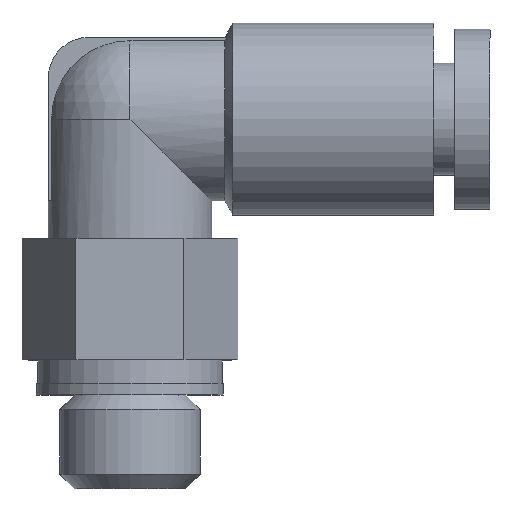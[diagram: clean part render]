
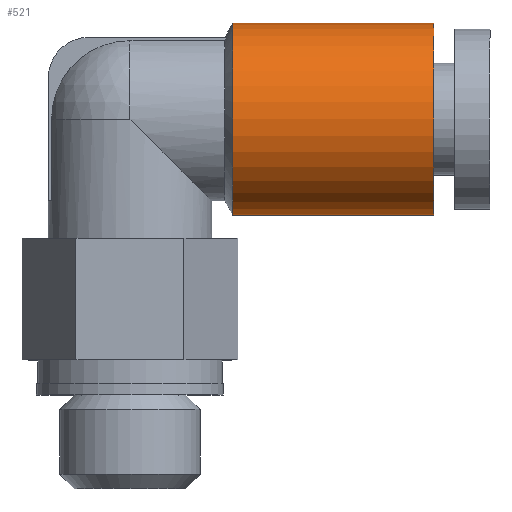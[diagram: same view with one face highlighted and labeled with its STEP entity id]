
A CAD part, top view. The second image highlights one B-rep face of the part: STEP entity #521.
In plain terms, the highlighted cylindrical face has radius 4.1 mm (diameter 8.2 mm), a full revolution.
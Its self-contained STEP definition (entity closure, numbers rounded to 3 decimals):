
#192=ORIENTED_EDGE('',*,*,#287,.F.);
#193=ORIENTED_EDGE('',*,*,#256,.T.);
#256=EDGE_CURVE('',#318,#318,#363,.T.);
#287=EDGE_CURVE('',#341,#341,#373,.T.);
#318=VERTEX_POINT('',#810);
#341=VERTEX_POINT('',#891);
#363=CIRCLE('',#563,4.1);
#373=CIRCLE('',#591,4.1);
#414=EDGE_LOOP('',(#192));
#415=EDGE_LOOP('',(#193));
#468=FACE_BOUND('',#414,.T.);
#469=FACE_BOUND('',#415,.T.);
#495=CYLINDRICAL_SURFACE('',#590,4.1);
#521=ADVANCED_FACE('',(#468,#469),#495,.T.);
#563=AXIS2_PLACEMENT_3D('',#809,#648,#649);
#590=AXIS2_PLACEMENT_3D('',#889,#720,#721);
#591=AXIS2_PLACEMENT_3D('',#890,#722,#723);
#648=DIRECTION('',(1.,0.,0.));
#649=DIRECTION('',(0.,1.,0.));
#720=DIRECTION('',(1.,0.,0.));
#721=DIRECTION('',(0.,1.,0.));
#722=DIRECTION('',(1.,0.,0.));
#723=DIRECTION('',(0.,1.,0.));
#809=CARTESIAN_POINT('',(4.4,11.8,0.));
#810=CARTESIAN_POINT('',(4.4,15.9,0.));
#889=CARTESIAN_POINT('',(15.4,11.8,0.));
#890=CARTESIAN_POINT('',(13.,11.8,0.));
#891=CARTESIAN_POINT('',(13.,15.9,0.));
